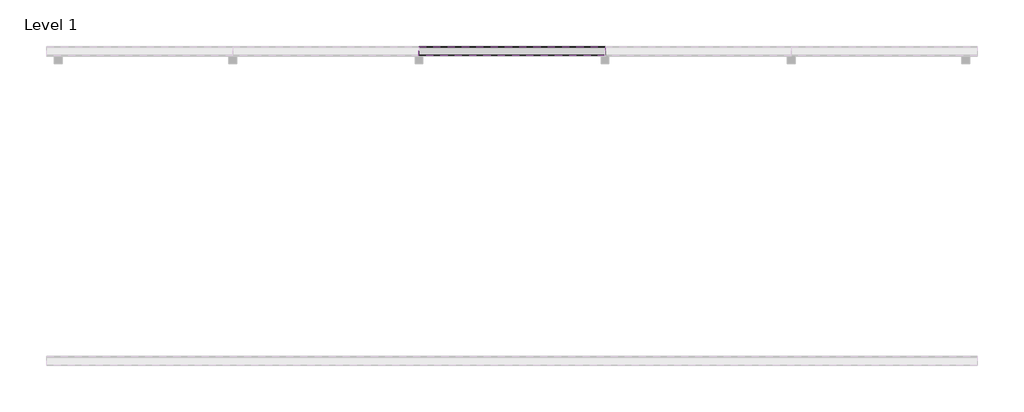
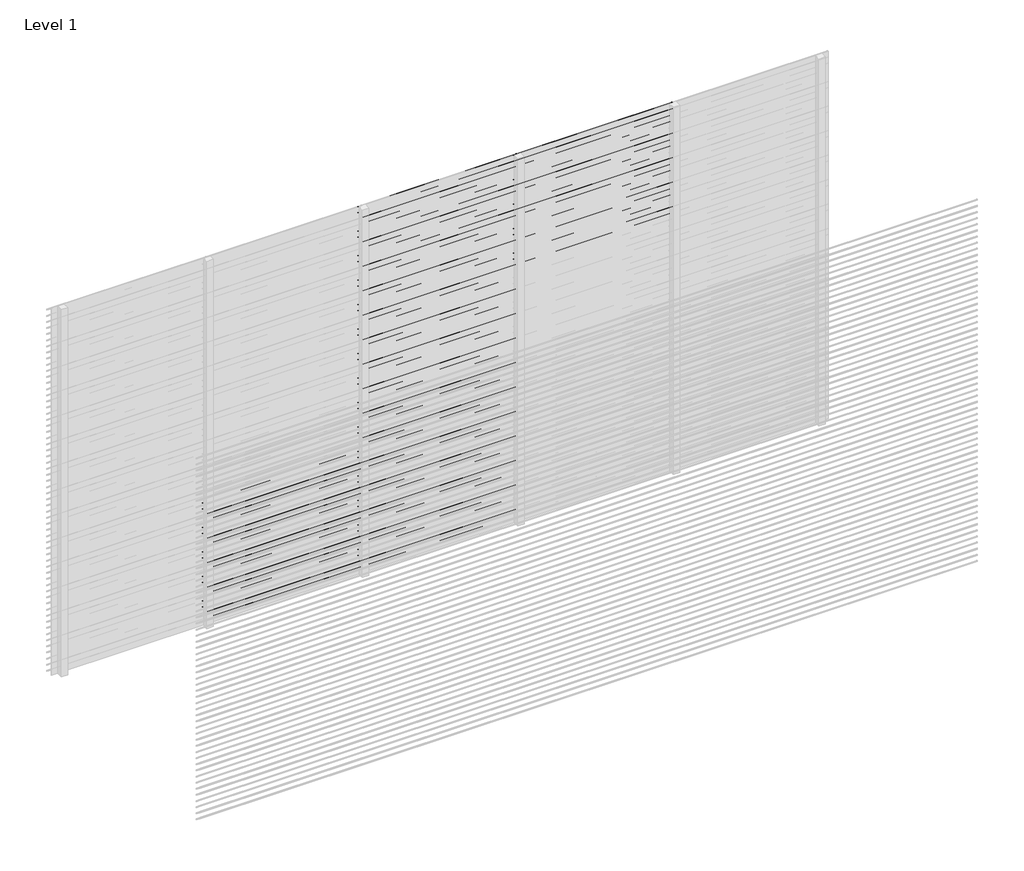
# One storey, part 15 of 16: 99 proxies.
"""IFC4 building model written with IfcOpenShell, lengths in millimetres."""

from ifc_helpers import new_model, si_unit, frame, origin, place, context, project, spatial, polyline, outline, extrude, element, save

model = new_model("IFC4")

# Units and contexts
model_context = context("Model", 3, world=origin())
ifc_project = project(units=[si_unit("LENGTHUNIT", "METRE", prefix="MILLI")], contexts=[model_context])

# Site, building, storey
site = spatial("IfcSite", under=ifc_project)
building = spatial("IfcBuilding", under=site)
storey = spatial("IfcBuildingStorey", under=building, Name="Level 1", Elevation=0.0)

# Proxies
placement = place(None, origin())
element("IfcBuildingElementProxy", 1, Name="Wall Sweeps", at=placement, inside=storey, context=model_context, shape_type="SweptSolid", body=[
    extrude(outline(polyline([(5.0, 1000.0), (5.0, 998.0), (61.0, 954.0), (61.0, 946.0), (3.0, 991.5714286), (3.0, 1000.0), (5.0, 1000.0)])), frame((1200.0, 0.0, 0.0), z_axis=(1.0, 0.0, 0.0), x_axis=(0.0, 1.0, 0.0)), (0.0, 0.0, 1.0), 1200.0),
])
element("IfcBuildingElementProxy", 2, Name="Wall Sweeps", at=placement, inside=storey, context=model_context, shape_type="SweptSolid", body=[
    extrude(outline(polyline([(5.0, 950.0), (5.0, 948.0), (61.0, 904.0), (61.0, 896.0), (3.0, 941.5714286), (3.0, 950.0), (5.0, 950.0)])), frame((1200.0, 0.0, 0.0), z_axis=(1.0, 0.0, 0.0), x_axis=(0.0, 1.0, 0.0)), (0.0, 0.0, 1.0), 1200.0),
])
element("IfcBuildingElementProxy", 3, Name="Wall Sweeps", at=placement, inside=storey, context=model_context, shape_type="SweptSolid", body=[
    extrude(outline(polyline([(5.0, 900.0), (5.0, 898.0), (61.0, 854.0), (61.0, 846.0), (3.0, 891.5714286), (3.0, 900.0), (5.0, 900.0)])), frame((1200.0, 0.0, 0.0), z_axis=(1.0, 0.0, 0.0), x_axis=(0.0, 1.0, 0.0)), (0.0, 0.0, 1.0), 1200.0),
])
element("IfcBuildingElementProxy", 4, Name="Wall Sweeps", at=placement, inside=storey, context=model_context, shape_type="SweptSolid", body=[
    extrude(outline(polyline([(5.0, 850.0), (5.0, 848.0), (61.0, 804.0), (61.0, 796.0), (3.0, 841.5714286), (3.0, 850.0), (5.0, 850.0)])), frame((1200.0, 0.0, 0.0), z_axis=(1.0, 0.0, 0.0), x_axis=(0.0, 1.0, 0.0)), (0.0, 0.0, 1.0), 1200.0),
])
element("IfcBuildingElementProxy", 5, Name="Wall Sweeps", at=placement, inside=storey, context=model_context, shape_type="SweptSolid", body=[
    extrude(outline(polyline([(5.0, 800.0), (5.0, 798.0), (61.0, 754.0), (61.0, 746.0), (3.0, 791.5714286), (3.0, 800.0), (5.0, 800.0)])), frame((1200.0, 0.0, 0.0), z_axis=(1.0, 0.0, 0.0), x_axis=(0.0, 1.0, 0.0)), (0.0, 0.0, 1.0), 1200.0),
])
element("IfcBuildingElementProxy", 6, Name="Wall Sweeps", at=placement, inside=storey, context=model_context, shape_type="SweptSolid", body=[
    extrude(outline(polyline([(5.0, 750.0), (5.0, 748.0), (61.0, 704.0), (61.0, 696.0), (3.0, 741.5714286), (3.0, 750.0), (5.0, 750.0)])), frame((1200.0, 0.0, 0.0), z_axis=(1.0, 0.0, 0.0), x_axis=(0.0, 1.0, 0.0)), (0.0, 0.0, 1.0), 1200.0),
])
element("IfcBuildingElementProxy", 7, Name="Wall Sweeps", at=placement, inside=storey, context=model_context, shape_type="SweptSolid", body=[
    extrude(outline(polyline([(5.0, 700.0), (5.0, 698.0), (61.0, 654.0), (61.0, 646.0), (3.0, 691.5714286), (3.0, 700.0), (5.0, 700.0)])), frame((1200.0, 0.0, 0.0), z_axis=(1.0, 0.0, 0.0), x_axis=(0.0, 1.0, 0.0)), (0.0, 0.0, 1.0), 1200.0),
])
element("IfcBuildingElementProxy", 8, Name="Wall Sweeps", at=placement, inside=storey, context=model_context, shape_type="SweptSolid", body=[
    extrude(outline(polyline([(5.0, 650.0), (5.0, 648.0), (61.0, 604.0), (61.0, 596.0), (3.0, 641.5714286), (3.0, 650.0), (5.0, 650.0)])), frame((1200.0, 0.0, 0.0), z_axis=(1.0, 0.0, 0.0), x_axis=(0.0, 1.0, 0.0)), (0.0, 0.0, 1.0), 1200.0),
])
element("IfcBuildingElementProxy", 9, Name="Wall Sweeps", at=placement, inside=storey, context=model_context, shape_type="SweptSolid", body=[
    extrude(outline(polyline([(5.0, 600.0), (5.0, 598.0), (61.0, 554.0), (61.0, 546.0), (3.0, 591.5714286), (3.0, 600.0), (5.0, 600.0)])), frame((1200.0, 0.0, 0.0), z_axis=(1.0, 0.0, 0.0), x_axis=(0.0, 1.0, 0.0)), (0.0, 0.0, 1.0), 1200.0),
])
element("IfcBuildingElementProxy", 10, Name="Wall Sweeps", at=placement, inside=storey, context=model_context, shape_type="SweptSolid", body=[
    extrude(outline(polyline([(5.0, 550.0), (5.0, 548.0), (61.0, 504.0), (61.0, 496.0), (3.0, 541.5714286), (3.0, 550.0), (5.0, 550.0)])), frame((1200.0, 0.0, 0.0), z_axis=(1.0, 0.0, 0.0), x_axis=(0.0, 1.0, 0.0)), (0.0, 0.0, 1.0), 1200.0),
])
element("IfcBuildingElementProxy", 11, Name="Wall Sweeps", at=placement, inside=storey, context=model_context, shape_type="SweptSolid", body=[
    extrude(outline(polyline([(5.0, 500.0), (5.0, 498.0), (61.0, 454.0), (61.0, 446.0), (3.0, 491.5714286), (3.0, 500.0), (5.0, 500.0)])), frame((1200.0, 0.0, 0.0), z_axis=(1.0, 0.0, 0.0), x_axis=(0.0, 1.0, 0.0)), (0.0, 0.0, 1.0), 1200.0),
])
element("IfcBuildingElementProxy", 12, Name="Wall Sweeps", at=placement, inside=storey, context=model_context, shape_type="SweptSolid", body=[
    extrude(outline(polyline([(5.0, 450.0), (5.0, 448.0), (61.0, 404.0), (61.0, 396.0), (3.0, 441.5714286), (3.0, 450.0), (5.0, 450.0)])), frame((1200.0, 0.0, 0.0), z_axis=(1.0, 0.0, 0.0), x_axis=(0.0, 1.0, 0.0)), (0.0, 0.0, 1.0), 1200.0),
])
element("IfcBuildingElementProxy", 13, Name="Wall Sweeps", at=placement, inside=storey, context=model_context, shape_type="SweptSolid", body=[
    extrude(outline(polyline([(5.0, 400.0), (5.0, 398.0), (61.0, 354.0), (61.0, 346.0), (3.0, 391.5714286), (3.0, 400.0), (5.0, 400.0)])), frame((1200.0, 0.0, 0.0), z_axis=(1.0, 0.0, 0.0), x_axis=(0.0, 1.0, 0.0)), (0.0, 0.0, 1.0), 1200.0),
])
element("IfcBuildingElementProxy", 14, Name="Wall Sweeps", at=placement, inside=storey, context=model_context, shape_type="SweptSolid", body=[
    extrude(outline(polyline([(5.0, 350.0), (5.0, 348.0), (61.0, 304.0), (61.0, 296.0), (3.0, 341.5714286), (3.0, 350.0), (5.0, 350.0)])), frame((1200.0, 0.0, 0.0), z_axis=(1.0, 0.0, 0.0), x_axis=(0.0, 1.0, 0.0)), (0.0, 0.0, 1.0), 1200.0),
])
element("IfcBuildingElementProxy", 15, Name="Wall Sweeps", at=placement, inside=storey, context=model_context, shape_type="SweptSolid", body=[
    extrude(outline(polyline([(5.0, 300.0), (5.0, 298.0), (61.0, 254.0), (61.0, 246.0), (3.0, 291.5714286), (3.0, 300.0), (5.0, 300.0)])), frame((1200.0, 0.0, 0.0), z_axis=(1.0, 0.0, 0.0), x_axis=(0.0, 1.0, 0.0)), (0.0, 0.0, 1.0), 1200.0),
])
element("IfcBuildingElementProxy", 16, Name="Wall Sweeps", at=placement, inside=storey, context=model_context, shape_type="SweptSolid", body=[
    extrude(outline(polyline([(5.0, 250.0), (5.0, 248.0), (61.0, 204.0), (61.0, 196.0), (3.0, 241.5714286), (3.0, 250.0), (5.0, 250.0)])), frame((1200.0, 0.0, 0.0), z_axis=(1.0, 0.0, 0.0), x_axis=(0.0, 1.0, 0.0)), (0.0, 0.0, 1.0), 1200.0),
])
element("IfcBuildingElementProxy", 17, Name="Wall Sweeps", at=placement, inside=storey, context=model_context, shape_type="SweptSolid", body=[
    extrude(outline(polyline([(5.0, 200.0), (5.0, 198.0), (61.0, 154.0), (61.0, 146.0), (3.0, 191.5714286), (3.0, 200.0), (5.0, 200.0)])), frame((1200.0, 0.0, 0.0), z_axis=(1.0, 0.0, 0.0), x_axis=(0.0, 1.0, 0.0)), (0.0, 0.0, 1.0), 1200.0),
])
element("IfcBuildingElementProxy", 18, Name="Wall Sweeps", at=placement, inside=storey, context=model_context, shape_type="SweptSolid", body=[
    extrude(outline(polyline([(5.0, 150.0), (5.0, 148.0), (61.0, 104.0), (61.0, 96.0), (3.0, 141.5714286), (3.0, 150.0), (5.0, 150.0)])), frame((1200.0, 0.0, 0.0), z_axis=(1.0, 0.0, 0.0), x_axis=(0.0, 1.0, 0.0)), (0.0, 0.0, 1.0), 1200.0),
])
element("IfcBuildingElementProxy", 19, Name="Wall Sweeps", at=placement, inside=storey, context=model_context, shape_type="SweptSolid", body=[
    extrude(outline(polyline([(5.0, 100.0), (5.0, 98.0), (61.0, 54.0), (61.0, 46.0), (3.0, 91.5714286), (3.0, 100.0), (5.0, 100.0)])), frame((1200.0, 0.0, 0.0), z_axis=(1.0, 0.0, 0.0), x_axis=(0.0, 1.0, 0.0)), (0.0, 0.0, 1.0), 1200.0),
])
element("IfcBuildingElementProxy", 20, Name="Wall Sweeps", at=placement, inside=storey, context=model_context, shape_type="SweptSolid", body=[
    extrude(outline(polyline([(5.0, 50.0), (5.0, 48.0), (61.0, 4.0), (61.0, -4.0), (3.0, 41.5714286), (3.0, 50.0), (5.0, 50.0)])), frame((1200.0, 0.0, 0.0), z_axis=(1.0, 0.0, 0.0), x_axis=(0.0, 1.0, 0.0)), (0.0, 0.0, 1.0), 1200.0),
])
element("IfcBuildingElementProxy", 21, Name="Wall Sweeps", at=placement, inside=storey, context=model_context, shape_type="SweptSolid", body=[
    extrude(outline(polyline([(5.0, 3000.0), (5.0, 2998.0), (61.0, 2954.0), (61.0, 2946.0), (3.0, 2991.5714286), (3.0, 3000.0), (5.0, 3000.0)])), frame((2400.0, 0.0, 0.0), z_axis=(1.0, 0.0, 0.0), x_axis=(0.0, 1.0, 0.0)), (0.0, 0.0, 1.0), 1200.0),
])
element("IfcBuildingElementProxy", 22, Name="Wall Sweeps", at=placement, inside=storey, context=model_context, shape_type="SweptSolid", body=[
    extrude(outline(polyline([(5.0, 2950.0), (5.0, 2948.0), (61.0, 2904.0), (61.0, 2896.0), (3.0, 2941.5714286), (3.0, 2950.0), (5.0, 2950.0)])), frame((2400.0, 0.0, 0.0), z_axis=(1.0, 0.0, 0.0), x_axis=(0.0, 1.0, 0.0)), (0.0, 0.0, 1.0), 1200.0),
])
element("IfcBuildingElementProxy", 23, Name="Wall Sweeps", at=placement, inside=storey, context=model_context, shape_type="SweptSolid", body=[
    extrude(outline(polyline([(5.0, 2900.0), (5.0, 2898.0), (61.0, 2854.0), (61.0, 2846.0), (3.0, 2891.5714286), (3.0, 2900.0), (5.0, 2900.0)])), frame((2400.0, 0.0, 0.0), z_axis=(1.0, 0.0, 0.0), x_axis=(0.0, 1.0, 0.0)), (0.0, 0.0, 1.0), 1200.0),
])
element("IfcBuildingElementProxy", 24, Name="Wall Sweeps", at=placement, inside=storey, context=model_context, shape_type="SweptSolid", body=[
    extrude(outline(polyline([(5.0, 2850.0), (5.0, 2848.0), (61.0, 2804.0), (61.0, 2796.0), (3.0, 2841.5714286), (3.0, 2850.0), (5.0, 2850.0)])), frame((2400.0, 0.0, 0.0), z_axis=(1.0, 0.0, 0.0), x_axis=(0.0, 1.0, 0.0)), (0.0, 0.0, 1.0), 1200.0),
])
element("IfcBuildingElementProxy", 25, Name="Wall Sweeps", at=placement, inside=storey, context=model_context, shape_type="SweptSolid", body=[
    extrude(outline(polyline([(5.0, 2800.0), (5.0, 2798.0), (61.0, 2754.0), (61.0, 2746.0), (3.0, 2791.5714286), (3.0, 2800.0), (5.0, 2800.0)])), frame((2400.0, 0.0, 0.0), z_axis=(1.0, 0.0, 0.0), x_axis=(0.0, 1.0, 0.0)), (0.0, 0.0, 1.0), 1200.0),
])
element("IfcBuildingElementProxy", 26, Name="Wall Sweeps", at=placement, inside=storey, context=model_context, shape_type="SweptSolid", body=[
    extrude(outline(polyline([(5.0, 2750.0), (5.0, 2748.0), (61.0, 2704.0), (61.0, 2696.0), (3.0, 2741.5714286), (3.0, 2750.0), (5.0, 2750.0)])), frame((2400.0, 0.0, 0.0), z_axis=(1.0, 0.0, 0.0), x_axis=(0.0, 1.0, 0.0)), (0.0, 0.0, 1.0), 1200.0),
])
element("IfcBuildingElementProxy", 27, Name="Wall Sweeps", at=placement, inside=storey, context=model_context, shape_type="SweptSolid", body=[
    extrude(outline(polyline([(5.0, 2700.0), (5.0, 2698.0), (61.0, 2654.0), (61.0, 2646.0), (3.0, 2691.5714286), (3.0, 2700.0), (5.0, 2700.0)])), frame((2400.0, 0.0, 0.0), z_axis=(1.0, 0.0, 0.0), x_axis=(0.0, 1.0, 0.0)), (0.0, 0.0, 1.0), 1200.0),
])
element("IfcBuildingElementProxy", 28, Name="Wall Sweeps", at=placement, inside=storey, context=model_context, shape_type="SweptSolid", body=[
    extrude(outline(polyline([(5.0, 2650.0), (5.0, 2648.0), (61.0, 2604.0), (61.0, 2596.0), (3.0, 2641.5714286), (3.0, 2650.0), (5.0, 2650.0)])), frame((2400.0, 0.0, 0.0), z_axis=(1.0, 0.0, 0.0), x_axis=(0.0, 1.0, 0.0)), (0.0, 0.0, 1.0), 1200.0),
])
element("IfcBuildingElementProxy", 29, Name="Wall Sweeps", at=placement, inside=storey, context=model_context, shape_type="SweptSolid", body=[
    extrude(outline(polyline([(5.0, 2600.0), (5.0, 2598.0), (61.0, 2554.0), (61.0, 2546.0), (3.0, 2591.5714286), (3.0, 2600.0), (5.0, 2600.0)])), frame((2400.0, 0.0, 0.0), z_axis=(1.0, 0.0, 0.0), x_axis=(0.0, 1.0, 0.0)), (0.0, 0.0, 1.0), 1200.0),
])
element("IfcBuildingElementProxy", 30, Name="Wall Sweeps", at=placement, inside=storey, context=model_context, shape_type="SweptSolid", body=[
    extrude(outline(polyline([(5.0, 2550.0), (5.0, 2548.0), (61.0, 2504.0), (61.0, 2496.0), (3.0, 2541.5714286), (3.0, 2550.0), (5.0, 2550.0)])), frame((2400.0, 0.0, 0.0), z_axis=(1.0, 0.0, 0.0), x_axis=(0.0, 1.0, 0.0)), (0.0, 0.0, 1.0), 1200.0),
])
element("IfcBuildingElementProxy", 31, Name="Wall Sweeps", at=placement, inside=storey, context=model_context, shape_type="SweptSolid", body=[
    extrude(outline(polyline([(5.0, 2500.0), (5.0, 2498.0), (61.0, 2454.0), (61.0, 2446.0), (3.0, 2491.5714286), (3.0, 2500.0), (5.0, 2500.0)])), frame((2400.0, 0.0, 0.0), z_axis=(1.0, 0.0, 0.0), x_axis=(0.0, 1.0, 0.0)), (0.0, 0.0, 1.0), 1200.0),
])
element("IfcBuildingElementProxy", 32, Name="Wall Sweeps", at=placement, inside=storey, context=model_context, shape_type="SweptSolid", body=[
    extrude(outline(polyline([(5.0, 2450.0), (5.0, 2448.0), (61.0, 2404.0), (61.0, 2396.0), (3.0, 2441.5714286), (3.0, 2450.0), (5.0, 2450.0)])), frame((2400.0, 0.0, 0.0), z_axis=(1.0, 0.0, 0.0), x_axis=(0.0, 1.0, 0.0)), (0.0, 0.0, 1.0), 1200.0),
])
element("IfcBuildingElementProxy", 33, Name="Wall Sweeps", at=placement, inside=storey, context=model_context, shape_type="SweptSolid", body=[
    extrude(outline(polyline([(5.0, 2400.0), (5.0, 2398.0), (61.0, 2354.0), (61.0, 2346.0), (3.0, 2391.5714286), (3.0, 2400.0), (5.0, 2400.0)])), frame((2400.0, 0.0, 0.0), z_axis=(1.0, 0.0, 0.0), x_axis=(0.0, 1.0, 0.0)), (0.0, 0.0, 1.0), 1200.0),
])
element("IfcBuildingElementProxy", 34, Name="Wall Sweeps", at=placement, inside=storey, context=model_context, shape_type="SweptSolid", body=[
    extrude(outline(polyline([(5.0, 2350.0), (5.0, 2348.0), (61.0, 2304.0), (61.0, 2296.0), (3.0, 2341.5714286), (3.0, 2350.0), (5.0, 2350.0)])), frame((2400.0, 0.0, 0.0), z_axis=(1.0, 0.0, 0.0), x_axis=(0.0, 1.0, 0.0)), (0.0, 0.0, 1.0), 1200.0),
])
element("IfcBuildingElementProxy", 35, Name="Wall Sweeps", at=placement, inside=storey, context=model_context, shape_type="SweptSolid", body=[
    extrude(outline(polyline([(5.0, 2300.0), (5.0, 2298.0), (61.0, 2254.0), (61.0, 2246.0), (3.0, 2291.5714286), (3.0, 2300.0), (5.0, 2300.0)])), frame((2400.0, 0.0, 0.0), z_axis=(1.0, 0.0, 0.0), x_axis=(0.0, 1.0, 0.0)), (0.0, 0.0, 1.0), 1200.0),
])
element("IfcBuildingElementProxy", 36, Name="Wall Sweeps", at=placement, inside=storey, context=model_context, shape_type="SweptSolid", body=[
    extrude(outline(polyline([(5.0, 2250.0), (5.0, 2248.0), (61.0, 2204.0), (61.0, 2196.0), (3.0, 2241.5714286), (3.0, 2250.0), (5.0, 2250.0)])), frame((2400.0, 0.0, 0.0), z_axis=(1.0, 0.0, 0.0), x_axis=(0.0, 1.0, 0.0)), (0.0, 0.0, 1.0), 1200.0),
])
element("IfcBuildingElementProxy", 37, Name="Wall Sweeps", at=placement, inside=storey, context=model_context, shape_type="SweptSolid", body=[
    extrude(outline(polyline([(5.0, 2200.0), (5.0, 2198.0), (61.0, 2154.0), (61.0, 2146.0), (3.0, 2191.5714286), (3.0, 2200.0), (5.0, 2200.0)])), frame((2400.0, 0.0, 0.0), z_axis=(1.0, 0.0, 0.0), x_axis=(0.0, 1.0, 0.0)), (0.0, 0.0, 1.0), 1200.0),
])
element("IfcBuildingElementProxy", 38, Name="Wall Sweeps", at=placement, inside=storey, context=model_context, shape_type="SweptSolid", body=[
    extrude(outline(polyline([(5.0, 2150.0), (5.0, 2148.0), (61.0, 2104.0), (61.0, 2096.0), (3.0, 2141.5714286), (3.0, 2150.0), (5.0, 2150.0)])), frame((2400.0, 0.0, 0.0), z_axis=(1.0, 0.0, 0.0), x_axis=(0.0, 1.0, 0.0)), (0.0, 0.0, 1.0), 1200.0),
])
element("IfcBuildingElementProxy", 39, Name="Wall Sweeps", at=placement, inside=storey, context=model_context, shape_type="SweptSolid", body=[
    extrude(outline(polyline([(5.0, 2100.0), (5.0, 2098.0), (61.0, 2054.0), (61.0, 2046.0), (3.0, 2091.5714286), (3.0, 2100.0), (5.0, 2100.0)])), frame((2400.0, 0.0, 0.0), z_axis=(1.0, 0.0, 0.0), x_axis=(0.0, 1.0, 0.0)), (0.0, 0.0, 1.0), 1200.0),
])
element("IfcBuildingElementProxy", 40, Name="Wall Sweeps", at=placement, inside=storey, context=model_context, shape_type="SweptSolid", body=[
    extrude(outline(polyline([(5.0, 2050.0), (5.0, 2048.0), (61.0, 2004.0), (61.0, 1996.0), (3.0, 2041.5714286), (3.0, 2050.0), (5.0, 2050.0)])), frame((2400.0, 0.0, 0.0), z_axis=(1.0, 0.0, 0.0), x_axis=(0.0, 1.0, 0.0)), (0.0, 0.0, 1.0), 1200.0),
])
element("IfcBuildingElementProxy", 41, Name="Wall Sweeps", at=placement, inside=storey, context=model_context, shape_type="SweptSolid", body=[
    extrude(outline(polyline([(5.0, 2000.0), (5.0, 1998.0), (61.0, 1954.0), (61.0, 1946.0), (3.0, 1991.5714286), (3.0, 2000.0), (5.0, 2000.0)])), frame((2400.0, 0.0, 0.0), z_axis=(1.0, 0.0, 0.0), x_axis=(0.0, 1.0, 0.0)), (0.0, 0.0, 1.0), 1200.0),
])
element("IfcBuildingElementProxy", 42, Name="Wall Sweeps", at=placement, inside=storey, context=model_context, shape_type="SweptSolid", body=[
    extrude(outline(polyline([(5.0, 1950.0), (5.0, 1948.0), (61.0, 1904.0), (61.0, 1896.0), (3.0, 1941.5714286), (3.0, 1950.0), (5.0, 1950.0)])), frame((2400.0, 0.0, 0.0), z_axis=(1.0, 0.0, 0.0), x_axis=(0.0, 1.0, 0.0)), (0.0, 0.0, 1.0), 1200.0),
])
element("IfcBuildingElementProxy", 43, Name="Wall Sweeps", at=placement, inside=storey, context=model_context, shape_type="SweptSolid", body=[
    extrude(outline(polyline([(5.0, 1900.0), (5.0, 1898.0), (61.0, 1854.0), (61.0, 1846.0), (3.0, 1891.5714286), (3.0, 1900.0), (5.0, 1900.0)])), frame((2400.0, 0.0, 0.0), z_axis=(1.0, 0.0, 0.0), x_axis=(0.0, 1.0, 0.0)), (0.0, 0.0, 1.0), 1200.0),
])
element("IfcBuildingElementProxy", 44, Name="Wall Sweeps", at=placement, inside=storey, context=model_context, shape_type="SweptSolid", body=[
    extrude(outline(polyline([(5.0, 1850.0), (5.0, 1848.0), (61.0, 1804.0), (61.0, 1796.0), (3.0, 1841.5714286), (3.0, 1850.0), (5.0, 1850.0)])), frame((2400.0, 0.0, 0.0), z_axis=(1.0, 0.0, 0.0), x_axis=(0.0, 1.0, 0.0)), (0.0, 0.0, 1.0), 1200.0),
])
element("IfcBuildingElementProxy", 45, Name="Wall Sweeps", at=placement, inside=storey, context=model_context, shape_type="SweptSolid", body=[
    extrude(outline(polyline([(5.0, 1800.0), (5.0, 1798.0), (61.0, 1754.0), (61.0, 1746.0), (3.0, 1791.5714286), (3.0, 1800.0), (5.0, 1800.0)])), frame((2400.0, 0.0, 0.0), z_axis=(1.0, 0.0, 0.0), x_axis=(0.0, 1.0, 0.0)), (0.0, 0.0, 1.0), 1200.0),
])
element("IfcBuildingElementProxy", 46, Name="Wall Sweeps", at=placement, inside=storey, context=model_context, shape_type="SweptSolid", body=[
    extrude(outline(polyline([(5.0, 1750.0), (5.0, 1748.0), (61.0, 1704.0), (61.0, 1696.0), (3.0, 1741.5714286), (3.0, 1750.0), (5.0, 1750.0)])), frame((2400.0, 0.0, 0.0), z_axis=(1.0, 0.0, 0.0), x_axis=(0.0, 1.0, 0.0)), (0.0, 0.0, 1.0), 1200.0),
])
element("IfcBuildingElementProxy", 47, Name="Wall Sweeps", at=placement, inside=storey, context=model_context, shape_type="SweptSolid", body=[
    extrude(outline(polyline([(5.0, 1700.0), (5.0, 1698.0), (61.0, 1654.0), (61.0, 1646.0), (3.0, 1691.5714286), (3.0, 1700.0), (5.0, 1700.0)])), frame((2400.0, 0.0, 0.0), z_axis=(1.0, 0.0, 0.0), x_axis=(0.0, 1.0, 0.0)), (0.0, 0.0, 1.0), 1200.0),
])
element("IfcBuildingElementProxy", 48, Name="Wall Sweeps", at=placement, inside=storey, context=model_context, shape_type="SweptSolid", body=[
    extrude(outline(polyline([(5.0, 1650.0), (5.0, 1648.0), (61.0, 1604.0), (61.0, 1596.0), (3.0, 1641.5714286), (3.0, 1650.0), (5.0, 1650.0)])), frame((2400.0, 0.0, 0.0), z_axis=(1.0, 0.0, 0.0), x_axis=(0.0, 1.0, 0.0)), (0.0, 0.0, 1.0), 1200.0),
])
element("IfcBuildingElementProxy", 49, Name="Wall Sweeps", at=placement, inside=storey, context=model_context, shape_type="SweptSolid", body=[
    extrude(outline(polyline([(5.0, 1600.0), (5.0, 1598.0), (61.0, 1554.0), (61.0, 1546.0), (3.0, 1591.5714286), (3.0, 1600.0), (5.0, 1600.0)])), frame((2400.0, 0.0, 0.0), z_axis=(1.0, 0.0, 0.0), x_axis=(0.0, 1.0, 0.0)), (0.0, 0.0, 1.0), 1200.0),
])
element("IfcBuildingElementProxy", 50, Name="Wall Sweeps", at=placement, inside=storey, context=model_context, shape_type="SweptSolid", body=[
    extrude(outline(polyline([(5.0, 1550.0), (5.0, 1548.0), (61.0, 1504.0), (61.0, 1496.0), (3.0, 1541.5714286), (3.0, 1550.0), (5.0, 1550.0)])), frame((2400.0, 0.0, 0.0), z_axis=(1.0, 0.0, 0.0), x_axis=(0.0, 1.0, 0.0)), (0.0, 0.0, 1.0), 1200.0),
])
element("IfcBuildingElementProxy", 51, Name="Wall Sweeps", at=placement, inside=storey, context=model_context, shape_type="SweptSolid", body=[
    extrude(outline(polyline([(5.0, 1500.0), (5.0, 1498.0), (61.0, 1454.0), (61.0, 1446.0), (3.0, 1491.5714286), (3.0, 1500.0), (5.0, 1500.0)])), frame((2400.0, 0.0, 0.0), z_axis=(1.0, 0.0, 0.0), x_axis=(0.0, 1.0, 0.0)), (0.0, 0.0, 1.0), 1200.0),
])
element("IfcBuildingElementProxy", 52, Name="Wall Sweeps", at=placement, inside=storey, context=model_context, shape_type="SweptSolid", body=[
    extrude(outline(polyline([(5.0, 1450.0), (5.0, 1448.0), (61.0, 1404.0), (61.0, 1396.0), (3.0, 1441.5714286), (3.0, 1450.0), (5.0, 1450.0)])), frame((2400.0, 0.0, 0.0), z_axis=(1.0, 0.0, 0.0), x_axis=(0.0, 1.0, 0.0)), (0.0, 0.0, 1.0), 1200.0),
])
element("IfcBuildingElementProxy", 53, Name="Wall Sweeps", at=placement, inside=storey, context=model_context, shape_type="SweptSolid", body=[
    extrude(outline(polyline([(5.0, 1400.0), (5.0, 1398.0), (61.0, 1354.0), (61.0, 1346.0), (3.0, 1391.5714286), (3.0, 1400.0), (5.0, 1400.0)])), frame((2400.0, 0.0, 0.0), z_axis=(1.0, 0.0, 0.0), x_axis=(0.0, 1.0, 0.0)), (0.0, 0.0, 1.0), 1200.0),
])
element("IfcBuildingElementProxy", 54, Name="Wall Sweeps", at=placement, inside=storey, context=model_context, shape_type="SweptSolid", body=[
    extrude(outline(polyline([(5.0, 1350.0), (5.0, 1348.0), (61.0, 1304.0), (61.0, 1296.0), (3.0, 1341.5714286), (3.0, 1350.0), (5.0, 1350.0)])), frame((2400.0, 0.0, 0.0), z_axis=(1.0, 0.0, 0.0), x_axis=(0.0, 1.0, 0.0)), (0.0, 0.0, 1.0), 1200.0),
])
element("IfcBuildingElementProxy", 55, Name="Wall Sweeps", at=placement, inside=storey, context=model_context, shape_type="SweptSolid", body=[
    extrude(outline(polyline([(5.0, 1300.0), (5.0, 1298.0), (61.0, 1254.0), (61.0, 1246.0), (3.0, 1291.5714286), (3.0, 1300.0), (5.0, 1300.0)])), frame((2400.0, 0.0, 0.0), z_axis=(1.0, 0.0, 0.0), x_axis=(0.0, 1.0, 0.0)), (0.0, 0.0, 1.0), 1200.0),
])
element("IfcBuildingElementProxy", 56, Name="Wall Sweeps", at=placement, inside=storey, context=model_context, shape_type="SweptSolid", body=[
    extrude(outline(polyline([(5.0, 1250.0), (5.0, 1248.0), (61.0, 1204.0), (61.0, 1196.0), (3.0, 1241.5714286), (3.0, 1250.0), (5.0, 1250.0)])), frame((2400.0, 0.0, 0.0), z_axis=(1.0, 0.0, 0.0), x_axis=(0.0, 1.0, 0.0)), (0.0, 0.0, 1.0), 1200.0),
])
element("IfcBuildingElementProxy", 57, Name="Wall Sweeps", at=placement, inside=storey, context=model_context, shape_type="SweptSolid", body=[
    extrude(outline(polyline([(5.0, 1200.0), (5.0, 1198.0), (61.0, 1154.0), (61.0, 1146.0), (3.0, 1191.5714286), (3.0, 1200.0), (5.0, 1200.0)])), frame((2400.0, 0.0, 0.0), z_axis=(1.0, 0.0, 0.0), x_axis=(0.0, 1.0, 0.0)), (0.0, 0.0, 1.0), 1200.0),
])
element("IfcBuildingElementProxy", 58, Name="Wall Sweeps", at=placement, inside=storey, context=model_context, shape_type="SweptSolid", body=[
    extrude(outline(polyline([(5.0, 1150.0), (5.0, 1148.0), (61.0, 1104.0), (61.0, 1096.0), (3.0, 1141.5714286), (3.0, 1150.0), (5.0, 1150.0)])), frame((2400.0, 0.0, 0.0), z_axis=(1.0, 0.0, 0.0), x_axis=(0.0, 1.0, 0.0)), (0.0, 0.0, 1.0), 1200.0),
])
element("IfcBuildingElementProxy", 59, Name="Wall Sweeps", at=placement, inside=storey, context=model_context, shape_type="SweptSolid", body=[
    extrude(outline(polyline([(5.0, 1100.0), (5.0, 1098.0), (61.0, 1054.0), (61.0, 1046.0), (3.0, 1091.5714286), (3.0, 1100.0), (5.0, 1100.0)])), frame((2400.0, 0.0, 0.0), z_axis=(1.0, 0.0, 0.0), x_axis=(0.0, 1.0, 0.0)), (0.0, 0.0, 1.0), 1200.0),
])
element("IfcBuildingElementProxy", 60, Name="Wall Sweeps", at=placement, inside=storey, context=model_context, shape_type="SweptSolid", body=[
    extrude(outline(polyline([(5.0, 1050.0), (5.0, 1048.0), (61.0, 1004.0), (61.0, 996.0), (3.0, 1041.5714286), (3.0, 1050.0), (5.0, 1050.0)])), frame((2400.0, 0.0, 0.0), z_axis=(1.0, 0.0, 0.0), x_axis=(0.0, 1.0, 0.0)), (0.0, 0.0, 1.0), 1200.0),
])
element("IfcBuildingElementProxy", 61, Name="Wall Sweeps", at=placement, inside=storey, context=model_context, shape_type="SweptSolid", body=[
    extrude(outline(polyline([(5.0, 1000.0), (5.0, 998.0), (61.0, 954.0), (61.0, 946.0), (3.0, 991.5714286), (3.0, 1000.0), (5.0, 1000.0)])), frame((2400.0, 0.0, 0.0), z_axis=(1.0, 0.0, 0.0), x_axis=(0.0, 1.0, 0.0)), (0.0, 0.0, 1.0), 1200.0),
])
element("IfcBuildingElementProxy", 62, Name="Wall Sweeps", at=placement, inside=storey, context=model_context, shape_type="SweptSolid", body=[
    extrude(outline(polyline([(5.0, 950.0), (5.0, 948.0), (61.0, 904.0), (61.0, 896.0), (3.0, 941.5714286), (3.0, 950.0), (5.0, 950.0)])), frame((2400.0, 0.0, 0.0), z_axis=(1.0, 0.0, 0.0), x_axis=(0.0, 1.0, 0.0)), (0.0, 0.0, 1.0), 1200.0),
])
element("IfcBuildingElementProxy", 63, Name="Wall Sweeps", at=placement, inside=storey, context=model_context, shape_type="SweptSolid", body=[
    extrude(outline(polyline([(5.0, 900.0), (5.0, 898.0), (61.0, 854.0), (61.0, 846.0), (3.0, 891.5714286), (3.0, 900.0), (5.0, 900.0)])), frame((2400.0, 0.0, 0.0), z_axis=(1.0, 0.0, 0.0), x_axis=(0.0, 1.0, 0.0)), (0.0, 0.0, 1.0), 1200.0),
])
element("IfcBuildingElementProxy", 64, Name="Wall Sweeps", at=placement, inside=storey, context=model_context, shape_type="SweptSolid", body=[
    extrude(outline(polyline([(5.0, 850.0), (5.0, 848.0), (61.0, 804.0), (61.0, 796.0), (3.0, 841.5714286), (3.0, 850.0), (5.0, 850.0)])), frame((2400.0, 0.0, 0.0), z_axis=(1.0, 0.0, 0.0), x_axis=(0.0, 1.0, 0.0)), (0.0, 0.0, 1.0), 1200.0),
])
element("IfcBuildingElementProxy", 65, Name="Wall Sweeps", at=placement, inside=storey, context=model_context, shape_type="SweptSolid", body=[
    extrude(outline(polyline([(5.0, 800.0), (5.0, 798.0), (61.0, 754.0), (61.0, 746.0), (3.0, 791.5714286), (3.0, 800.0), (5.0, 800.0)])), frame((2400.0, 0.0, 0.0), z_axis=(1.0, 0.0, 0.0), x_axis=(0.0, 1.0, 0.0)), (0.0, 0.0, 1.0), 1200.0),
])
element("IfcBuildingElementProxy", 66, Name="Wall Sweeps", at=placement, inside=storey, context=model_context, shape_type="SweptSolid", body=[
    extrude(outline(polyline([(5.0, 750.0), (5.0, 748.0), (61.0, 704.0), (61.0, 696.0), (3.0, 741.5714286), (3.0, 750.0), (5.0, 750.0)])), frame((2400.0, 0.0, 0.0), z_axis=(1.0, 0.0, 0.0), x_axis=(0.0, 1.0, 0.0)), (0.0, 0.0, 1.0), 1200.0),
])
element("IfcBuildingElementProxy", 67, Name="Wall Sweeps", at=placement, inside=storey, context=model_context, shape_type="SweptSolid", body=[
    extrude(outline(polyline([(5.0, 700.0), (5.0, 698.0), (61.0, 654.0), (61.0, 646.0), (3.0, 691.5714286), (3.0, 700.0), (5.0, 700.0)])), frame((2400.0, 0.0, 0.0), z_axis=(1.0, 0.0, 0.0), x_axis=(0.0, 1.0, 0.0)), (0.0, 0.0, 1.0), 1200.0),
])
element("IfcBuildingElementProxy", 68, Name="Wall Sweeps", at=placement, inside=storey, context=model_context, shape_type="SweptSolid", body=[
    extrude(outline(polyline([(5.0, 650.0), (5.0, 648.0), (61.0, 604.0), (61.0, 596.0), (3.0, 641.5714286), (3.0, 650.0), (5.0, 650.0)])), frame((2400.0, 0.0, 0.0), z_axis=(1.0, 0.0, 0.0), x_axis=(0.0, 1.0, 0.0)), (0.0, 0.0, 1.0), 1200.0),
])
element("IfcBuildingElementProxy", 69, Name="Wall Sweeps", at=placement, inside=storey, context=model_context, shape_type="SweptSolid", body=[
    extrude(outline(polyline([(5.0, 600.0), (5.0, 598.0), (61.0, 554.0), (61.0, 546.0), (3.0, 591.5714286), (3.0, 600.0), (5.0, 600.0)])), frame((2400.0, 0.0, 0.0), z_axis=(1.0, 0.0, 0.0), x_axis=(0.0, 1.0, 0.0)), (0.0, 0.0, 1.0), 1200.0),
])
element("IfcBuildingElementProxy", 70, Name="Wall Sweeps", at=placement, inside=storey, context=model_context, shape_type="SweptSolid", body=[
    extrude(outline(polyline([(5.0, 550.0), (5.0, 548.0), (61.0, 504.0), (61.0, 496.0), (3.0, 541.5714286), (3.0, 550.0), (5.0, 550.0)])), frame((2400.0, 0.0, 0.0), z_axis=(1.0, 0.0, 0.0), x_axis=(0.0, 1.0, 0.0)), (0.0, 0.0, 1.0), 1200.0),
])
element("IfcBuildingElementProxy", 71, Name="Wall Sweeps", at=placement, inside=storey, context=model_context, shape_type="SweptSolid", body=[
    extrude(outline(polyline([(5.0, 500.0), (5.0, 498.0), (61.0, 454.0), (61.0, 446.0), (3.0, 491.5714286), (3.0, 500.0), (5.0, 500.0)])), frame((2400.0, 0.0, 0.0), z_axis=(1.0, 0.0, 0.0), x_axis=(0.0, 1.0, 0.0)), (0.0, 0.0, 1.0), 1200.0),
])
element("IfcBuildingElementProxy", 72, Name="Wall Sweeps", at=placement, inside=storey, context=model_context, shape_type="SweptSolid", body=[
    extrude(outline(polyline([(5.0, 450.0), (5.0, 448.0), (61.0, 404.0), (61.0, 396.0), (3.0, 441.5714286), (3.0, 450.0), (5.0, 450.0)])), frame((2400.0, 0.0, 0.0), z_axis=(1.0, 0.0, 0.0), x_axis=(0.0, 1.0, 0.0)), (0.0, 0.0, 1.0), 1200.0),
])
element("IfcBuildingElementProxy", 73, Name="Wall Sweeps", at=placement, inside=storey, context=model_context, shape_type="SweptSolid", body=[
    extrude(outline(polyline([(5.0, 400.0), (5.0, 398.0), (61.0, 354.0), (61.0, 346.0), (3.0, 391.5714286), (3.0, 400.0), (5.0, 400.0)])), frame((2400.0, 0.0, 0.0), z_axis=(1.0, 0.0, 0.0), x_axis=(0.0, 1.0, 0.0)), (0.0, 0.0, 1.0), 1200.0),
])
element("IfcBuildingElementProxy", 74, Name="Wall Sweeps", at=placement, inside=storey, context=model_context, shape_type="SweptSolid", body=[
    extrude(outline(polyline([(5.0, 350.0), (5.0, 348.0), (61.0, 304.0), (61.0, 296.0), (3.0, 341.5714286), (3.0, 350.0), (5.0, 350.0)])), frame((2400.0, 0.0, 0.0), z_axis=(1.0, 0.0, 0.0), x_axis=(0.0, 1.0, 0.0)), (0.0, 0.0, 1.0), 1200.0),
])
element("IfcBuildingElementProxy", 75, Name="Wall Sweeps", at=placement, inside=storey, context=model_context, shape_type="SweptSolid", body=[
    extrude(outline(polyline([(5.0, 300.0), (5.0, 298.0), (61.0, 254.0), (61.0, 246.0), (3.0, 291.5714286), (3.0, 300.0), (5.0, 300.0)])), frame((2400.0, 0.0, 0.0), z_axis=(1.0, 0.0, 0.0), x_axis=(0.0, 1.0, 0.0)), (0.0, 0.0, 1.0), 1200.0),
])
element("IfcBuildingElementProxy", 76, Name="Wall Sweeps", at=placement, inside=storey, context=model_context, shape_type="SweptSolid", body=[
    extrude(outline(polyline([(5.0, 250.0), (5.0, 248.0), (61.0, 204.0), (61.0, 196.0), (3.0, 241.5714286), (3.0, 250.0), (5.0, 250.0)])), frame((2400.0, 0.0, 0.0), z_axis=(1.0, 0.0, 0.0), x_axis=(0.0, 1.0, 0.0)), (0.0, 0.0, 1.0), 1200.0),
])
element("IfcBuildingElementProxy", 77, Name="Wall Sweeps", at=placement, inside=storey, context=model_context, shape_type="SweptSolid", body=[
    extrude(outline(polyline([(5.0, 200.0), (5.0, 198.0), (61.0, 154.0), (61.0, 146.0), (3.0, 191.5714286), (3.0, 200.0), (5.0, 200.0)])), frame((2400.0, 0.0, 0.0), z_axis=(1.0, 0.0, 0.0), x_axis=(0.0, 1.0, 0.0)), (0.0, 0.0, 1.0), 1200.0),
])
element("IfcBuildingElementProxy", 78, Name="Wall Sweeps", at=placement, inside=storey, context=model_context, shape_type="SweptSolid", body=[
    extrude(outline(polyline([(5.0, 150.0), (5.0, 148.0), (61.0, 104.0), (61.0, 96.0), (3.0, 141.5714286), (3.0, 150.0), (5.0, 150.0)])), frame((2400.0, 0.0, 0.0), z_axis=(1.0, 0.0, 0.0), x_axis=(0.0, 1.0, 0.0)), (0.0, 0.0, 1.0), 1200.0),
])
element("IfcBuildingElementProxy", 79, Name="Wall Sweeps", at=placement, inside=storey, context=model_context, shape_type="SweptSolid", body=[
    extrude(outline(polyline([(5.0, 100.0), (5.0, 98.0), (61.0, 54.0), (61.0, 46.0), (3.0, 91.5714286), (3.0, 100.0), (5.0, 100.0)])), frame((2400.0, 0.0, 0.0), z_axis=(1.0, 0.0, 0.0), x_axis=(0.0, 1.0, 0.0)), (0.0, 0.0, 1.0), 1200.0),
])
element("IfcBuildingElementProxy", 80, Name="Wall Sweeps", at=placement, inside=storey, context=model_context, shape_type="SweptSolid", body=[
    extrude(outline(polyline([(5.0, 50.0), (5.0, 48.0), (61.0, 4.0), (61.0, -4.0), (3.0, 41.5714286), (3.0, 50.0), (5.0, 50.0)])), frame((2400.0, 0.0, 0.0), z_axis=(1.0, 0.0, 0.0), x_axis=(0.0, 1.0, 0.0)), (0.0, 0.0, 1.0), 1200.0),
])
element("IfcBuildingElementProxy", 81, Name="Wall Sweeps", at=placement, inside=storey, context=model_context, shape_type="SweptSolid", body=[
    extrude(outline(polyline([(5.0, 3000.0), (5.0, 2998.0), (61.0, 2954.0), (61.0, 2946.0), (3.0, 2991.5714286), (3.0, 3000.0), (5.0, 3000.0)])), frame((3600.0, 0.0, 0.0), z_axis=(1.0, 0.0, 0.0), x_axis=(0.0, 1.0, 0.0)), (0.0, 0.0, 1.0), 1200.0),
])
element("IfcBuildingElementProxy", 82, Name="Wall Sweeps", at=placement, inside=storey, context=model_context, shape_type="SweptSolid", body=[
    extrude(outline(polyline([(5.0, 2950.0), (5.0, 2948.0), (61.0, 2904.0), (61.0, 2896.0), (3.0, 2941.5714286), (3.0, 2950.0), (5.0, 2950.0)])), frame((3600.0, 0.0, 0.0), z_axis=(1.0, 0.0, 0.0), x_axis=(0.0, 1.0, 0.0)), (0.0, 0.0, 1.0), 1200.0),
])
element("IfcBuildingElementProxy", 83, Name="Wall Sweeps", at=placement, inside=storey, context=model_context, shape_type="SweptSolid", body=[
    extrude(outline(polyline([(5.0, 2900.0), (5.0, 2898.0), (61.0, 2854.0), (61.0, 2846.0), (3.0, 2891.5714286), (3.0, 2900.0), (5.0, 2900.0)])), frame((3600.0, 0.0, 0.0), z_axis=(1.0, 0.0, 0.0), x_axis=(0.0, 1.0, 0.0)), (0.0, 0.0, 1.0), 1200.0),
])
element("IfcBuildingElementProxy", 84, Name="Wall Sweeps", at=placement, inside=storey, context=model_context, shape_type="SweptSolid", body=[
    extrude(outline(polyline([(5.0, 2850.0), (5.0, 2848.0), (61.0, 2804.0), (61.0, 2796.0), (3.0, 2841.5714286), (3.0, 2850.0), (5.0, 2850.0)])), frame((3600.0, 0.0, 0.0), z_axis=(1.0, 0.0, 0.0), x_axis=(0.0, 1.0, 0.0)), (0.0, 0.0, 1.0), 1200.0),
])
element("IfcBuildingElementProxy", 85, Name="Wall Sweeps", at=placement, inside=storey, context=model_context, shape_type="SweptSolid", body=[
    extrude(outline(polyline([(5.0, 2800.0), (5.0, 2798.0), (61.0, 2754.0), (61.0, 2746.0), (3.0, 2791.5714286), (3.0, 2800.0), (5.0, 2800.0)])), frame((3600.0, 0.0, 0.0), z_axis=(1.0, 0.0, 0.0), x_axis=(0.0, 1.0, 0.0)), (0.0, 0.0, 1.0), 1200.0),
])
element("IfcBuildingElementProxy", 86, Name="Wall Sweeps", at=placement, inside=storey, context=model_context, shape_type="SweptSolid", body=[
    extrude(outline(polyline([(5.0, 2750.0), (5.0, 2748.0), (61.0, 2704.0), (61.0, 2696.0), (3.0, 2741.5714286), (3.0, 2750.0), (5.0, 2750.0)])), frame((3600.0, 0.0, 0.0), z_axis=(1.0, 0.0, 0.0), x_axis=(0.0, 1.0, 0.0)), (0.0, 0.0, 1.0), 1200.0),
])
element("IfcBuildingElementProxy", 87, Name="Wall Sweeps", at=placement, inside=storey, context=model_context, shape_type="SweptSolid", body=[
    extrude(outline(polyline([(5.0, 2700.0), (5.0, 2698.0), (61.0, 2654.0), (61.0, 2646.0), (3.0, 2691.5714286), (3.0, 2700.0), (5.0, 2700.0)])), frame((3600.0, 0.0, 0.0), z_axis=(1.0, 0.0, 0.0), x_axis=(0.0, 1.0, 0.0)), (0.0, 0.0, 1.0), 1200.0),
])
element("IfcBuildingElementProxy", 88, Name="Wall Sweeps", at=placement, inside=storey, context=model_context, shape_type="SweptSolid", body=[
    extrude(outline(polyline([(5.0, 2650.0), (5.0, 2648.0), (61.0, 2604.0), (61.0, 2596.0), (3.0, 2641.5714286), (3.0, 2650.0), (5.0, 2650.0)])), frame((3600.0, 0.0, 0.0), z_axis=(1.0, 0.0, 0.0), x_axis=(0.0, 1.0, 0.0)), (0.0, 0.0, 1.0), 1200.0),
])
element("IfcBuildingElementProxy", 89, Name="Wall Sweeps", at=placement, inside=storey, context=model_context, shape_type="SweptSolid", body=[
    extrude(outline(polyline([(5.0, 2600.0), (5.0, 2598.0), (61.0, 2554.0), (61.0, 2546.0), (3.0, 2591.5714286), (3.0, 2600.0), (5.0, 2600.0)])), frame((3600.0, 0.0, 0.0), z_axis=(1.0, 0.0, 0.0), x_axis=(0.0, 1.0, 0.0)), (0.0, 0.0, 1.0), 1200.0),
])
element("IfcBuildingElementProxy", 90, Name="Wall Sweeps", at=placement, inside=storey, context=model_context, shape_type="SweptSolid", body=[
    extrude(outline(polyline([(5.0, 2550.0), (5.0, 2548.0), (61.0, 2504.0), (61.0, 2496.0), (3.0, 2541.5714286), (3.0, 2550.0), (5.0, 2550.0)])), frame((3600.0, 0.0, 0.0), z_axis=(1.0, 0.0, 0.0), x_axis=(0.0, 1.0, 0.0)), (0.0, 0.0, 1.0), 1200.0),
])
element("IfcBuildingElementProxy", 91, Name="Wall Sweeps", at=placement, inside=storey, context=model_context, shape_type="SweptSolid", body=[
    extrude(outline(polyline([(5.0, 2500.0), (5.0, 2498.0), (61.0, 2454.0), (61.0, 2446.0), (3.0, 2491.5714286), (3.0, 2500.0), (5.0, 2500.0)])), frame((3600.0, 0.0, 0.0), z_axis=(1.0, 0.0, 0.0), x_axis=(0.0, 1.0, 0.0)), (0.0, 0.0, 1.0), 1200.0),
])
element("IfcBuildingElementProxy", 92, Name="Wall Sweeps", at=placement, inside=storey, context=model_context, shape_type="SweptSolid", body=[
    extrude(outline(polyline([(5.0, 2450.0), (5.0, 2448.0), (61.0, 2404.0), (61.0, 2396.0), (3.0, 2441.5714286), (3.0, 2450.0), (5.0, 2450.0)])), frame((3600.0, 0.0, 0.0), z_axis=(1.0, 0.0, 0.0), x_axis=(0.0, 1.0, 0.0)), (0.0, 0.0, 1.0), 1200.0),
])
element("IfcBuildingElementProxy", 93, Name="Wall Sweeps", at=placement, inside=storey, context=model_context, shape_type="SweptSolid", body=[
    extrude(outline(polyline([(5.0, 2400.0), (5.0, 2398.0), (61.0, 2354.0), (61.0, 2346.0), (3.0, 2391.5714286), (3.0, 2400.0), (5.0, 2400.0)])), frame((3600.0, 0.0, 0.0), z_axis=(1.0, 0.0, 0.0), x_axis=(0.0, 1.0, 0.0)), (0.0, 0.0, 1.0), 1200.0),
])
element("IfcBuildingElementProxy", 94, Name="Wall Sweeps", at=placement, inside=storey, context=model_context, shape_type="SweptSolid", body=[
    extrude(outline(polyline([(5.0, 2350.0), (5.0, 2348.0), (61.0, 2304.0), (61.0, 2296.0), (3.0, 2341.5714286), (3.0, 2350.0), (5.0, 2350.0)])), frame((3600.0, 0.0, 0.0), z_axis=(1.0, 0.0, 0.0), x_axis=(0.0, 1.0, 0.0)), (0.0, 0.0, 1.0), 1200.0),
])
element("IfcBuildingElementProxy", 95, Name="Wall Sweeps", at=placement, inside=storey, context=model_context, shape_type="SweptSolid", body=[
    extrude(outline(polyline([(5.0, 2300.0), (5.0, 2298.0), (61.0, 2254.0), (61.0, 2246.0), (3.0, 2291.5714286), (3.0, 2300.0), (5.0, 2300.0)])), frame((3600.0, 0.0, 0.0), z_axis=(1.0, 0.0, 0.0), x_axis=(0.0, 1.0, 0.0)), (0.0, 0.0, 1.0), 1200.0),
])
element("IfcBuildingElementProxy", 96, Name="Wall Sweeps", at=placement, inside=storey, context=model_context, shape_type="SweptSolid", body=[
    extrude(outline(polyline([(5.0, 2250.0), (5.0, 2248.0), (61.0, 2204.0), (61.0, 2196.0), (3.0, 2241.5714286), (3.0, 2250.0), (5.0, 2250.0)])), frame((3600.0, 0.0, 0.0), z_axis=(1.0, 0.0, 0.0), x_axis=(0.0, 1.0, 0.0)), (0.0, 0.0, 1.0), 1200.0),
])
element("IfcBuildingElementProxy", 97, Name="Wall Sweeps", at=placement, inside=storey, context=model_context, shape_type="SweptSolid", body=[
    extrude(outline(polyline([(5.0, 2200.0), (5.0, 2198.0), (61.0, 2154.0), (61.0, 2146.0), (3.0, 2191.5714286), (3.0, 2200.0), (5.0, 2200.0)])), frame((3600.0, 0.0, 0.0), z_axis=(1.0, 0.0, 0.0), x_axis=(0.0, 1.0, 0.0)), (0.0, 0.0, 1.0), 1200.0),
])
element("IfcBuildingElementProxy", 98, Name="Wall Sweeps", at=placement, inside=storey, context=model_context, shape_type="SweptSolid", body=[
    extrude(outline(polyline([(5.0, 2150.0), (5.0, 2148.0), (61.0, 2104.0), (61.0, 2096.0), (3.0, 2141.5714286), (3.0, 2150.0), (5.0, 2150.0)])), frame((3600.0, 0.0, 0.0), z_axis=(1.0, 0.0, 0.0), x_axis=(0.0, 1.0, 0.0)), (0.0, 0.0, 1.0), 1200.0),
])
element("IfcBuildingElementProxy", 99, Name="Wall Sweeps", at=placement, inside=storey, context=model_context, shape_type="SweptSolid", body=[
    extrude(outline(polyline([(5.0, 2100.0), (5.0, 2098.0), (61.0, 2054.0), (61.0, 2046.0), (3.0, 2091.5714286), (3.0, 2100.0), (5.0, 2100.0)])), frame((3600.0, 0.0, 0.0), z_axis=(1.0, 0.0, 0.0), x_axis=(0.0, 1.0, 0.0)), (0.0, 0.0, 1.0), 1200.0),
])

save(model, "model.ifc")
